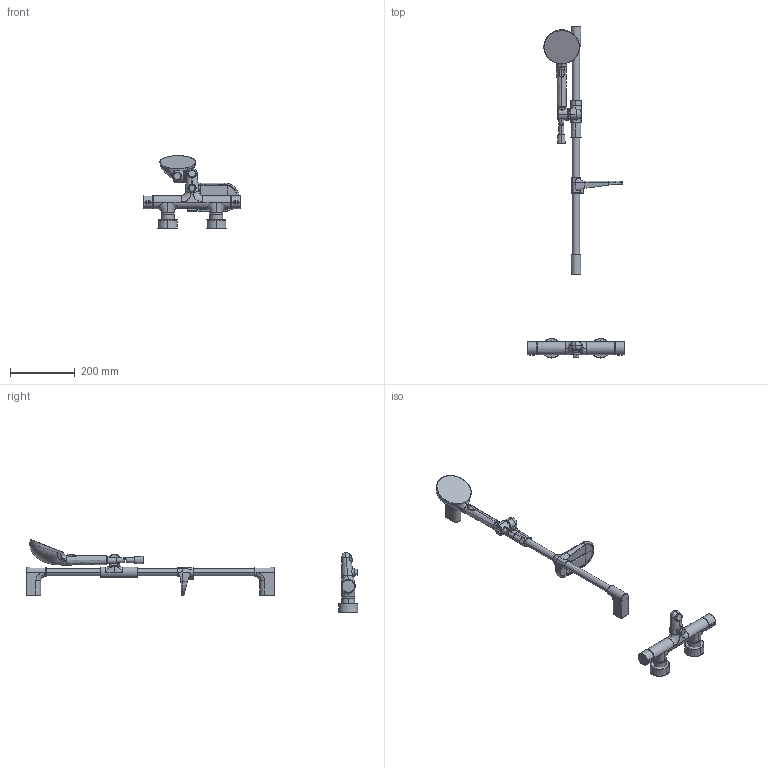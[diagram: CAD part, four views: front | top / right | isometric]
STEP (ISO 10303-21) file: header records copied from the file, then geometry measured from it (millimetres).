
FILE_DESCRIPTION (( 'STEP AP203' ), '1' );
FILE_NAME ('4749(2024).STEP', '2024-03-21T10:33:14', ( '' ), ( '' ), 'SwSTEP 2.0', 'SolidWorks 2016', '' );
FILE_SCHEMA (( 'CONFIG_CONTROL_DESIGN' ));
Products named in the file (1): 4749(2024)
Bounding box: 299.88 x 1024.12 x 224.52 mm (x, y, z)
Volume: 1848236.7 mm3; surface area: 299500.7 mm2
Topology: 22 solids, 22 shells, 590 faces, 1436 edges, 882 vertices
Faces by surface type: bspline 345, plane 83, cylinder 68, cone 51, sphere 22, torus 21
Entity records: 69859 total; most frequent: CARTESIAN_POINT 58460, ORIENTED_EDGE 2838, DIRECTION 1705, EDGE_CURVE 1419, VERTEX_POINT 882, AXIS2_PLACEMENT_3D 750, B_SPLINE_CURVE_WITH_KNOTS 607, EDGE_LOOP 601
